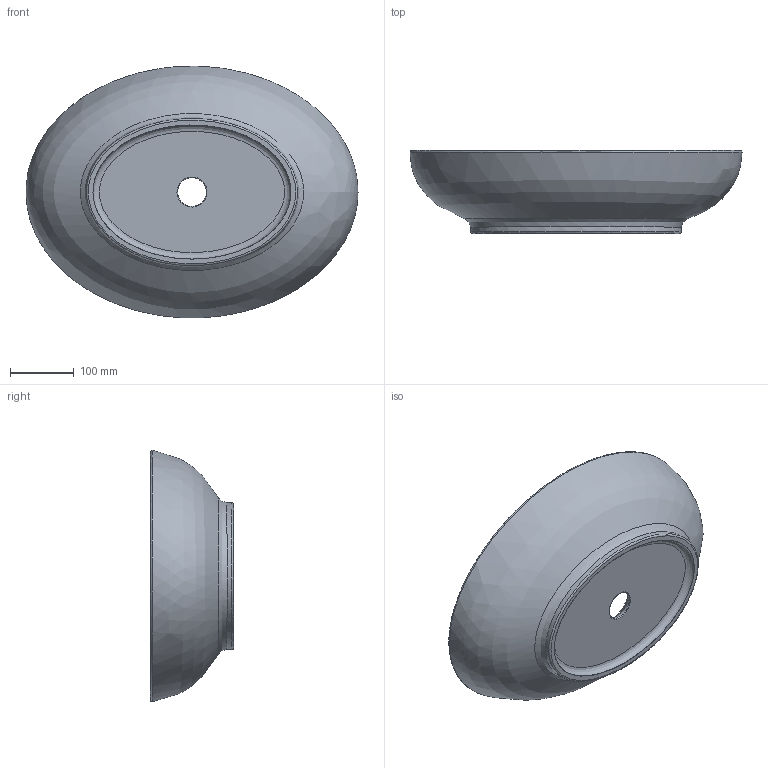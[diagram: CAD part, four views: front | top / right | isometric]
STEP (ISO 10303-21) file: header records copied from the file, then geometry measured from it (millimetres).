
FILE_DESCRIPTION (( 'STEP AP203' ), '1' );
FILE_NAME ('F70121 F70124 Marmic Oval WBL 520x395x130.STEP', '2021-12-02T09:07:59', ( 'RIHO' ), ( '' ), 'SwSTEP 2.0', 'SolidWorks 2020', '' );
FILE_SCHEMA (( 'CONFIG_CONTROL_DESIGN' ));
Length unit declared in the file: millimetre
Products named in the file (1): F70121 F70124 Marmic Oval WBL 520x395x130
Bounding box: 519.88 x 130 x 394.21 mm (x, y, z)
Volume: 3843581.6 mm3; surface area: 473957.7 mm2
Topology: 1 solids, 1 shells, 16 faces, 39 edges, 26 vertices
Faces by surface type: bspline 13, plane 3
Entity records: 8059 total; most frequent: CARTESIAN_POINT 7799, ORIENTED_EDGE 32, EDGE_LOOP 32, FACE_OUTER_BOUND 29, VERTEX_POINT 16, B_SPLINE_CURVE_WITH_KNOTS 16, EDGE_CURVE 16, ADVANCED_FACE 16
